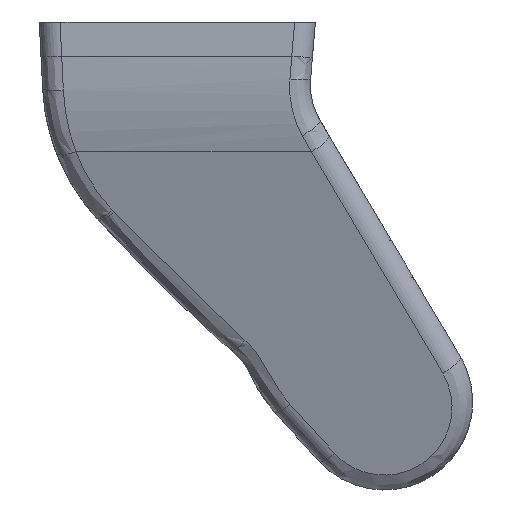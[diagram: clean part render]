
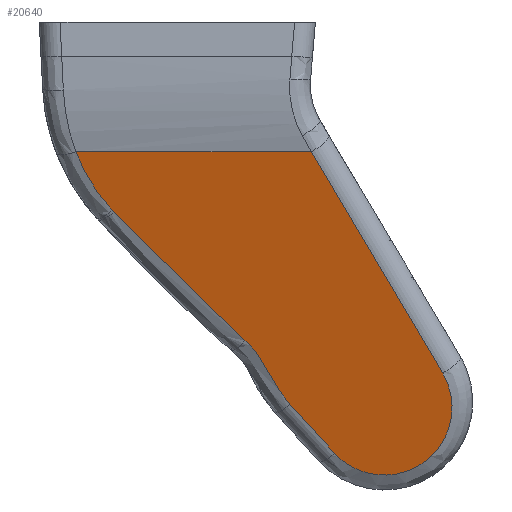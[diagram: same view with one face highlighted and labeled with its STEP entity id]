
A CAD part, left-side view. The second image highlights one B-rep face of the part: STEP entity #20640.
In plain terms, the highlighted planar face has unit normal (-0.961, 0, -0.277).
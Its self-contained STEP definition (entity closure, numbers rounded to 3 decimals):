
#5565 = EDGE_CURVE ( 'NONE', #20936, #20945, #6894, .T. ) ;
#5569 = EDGE_CURVE ( 'NONE', #20872, #20945, #15441, .T. ) ;
#5570 = EDGE_CURVE ( 'NONE', #20881, #20872, #6918, .T. ) ;
#5571 = EDGE_CURVE ( 'NONE', #20876, #20881, #15442, .T. ) ;
#5572 = EDGE_CURVE ( 'NONE', #20878, #20876, #20371, .T. ) ;
#5573 = EDGE_CURVE ( 'NONE', #20340, #20878, #6932, .T. ) ;
#5574 = EDGE_CURVE ( 'NONE', #20880, #20340, #15443, .T. ) ;
#5575 = EDGE_CURVE ( 'NONE', #20936, #20880, #6948, .T. ) ;
#6278 = ORIENTED_EDGE ( 'NONE', *, *, #5565, .T. ) ;
#6279 = ORIENTED_EDGE ( 'NONE', *, *, #5569, .F. ) ;
#6280 = ORIENTED_EDGE ( 'NONE', *, *, #5570, .F. ) ;
#6281 = ORIENTED_EDGE ( 'NONE', *, *, #5571, .F. ) ;
#6282 = ORIENTED_EDGE ( 'NONE', *, *, #5572, .F. ) ;
#6283 = ORIENTED_EDGE ( 'NONE', *, *, #5573, .F. ) ;
#6284 = ORIENTED_EDGE ( 'NONE', *, *, #5574, .F. ) ;
#6285 = ORIENTED_EDGE ( 'NONE', *, *, #5575, .F. ) ;
#6894 = LINE ( 'NONE', #6896, #15415 ) ;
#6896 = CARTESIAN_POINT ( 'NONE',  ( -320.319, -82.548, 78.225 ) ) ;
#6903 = DIRECTION ( 'NONE',  ( 0., 1., 0. ) ) ;
#6907 = CARTESIAN_POINT ( 'NONE',  ( -317.878, -30.291, 69.757 ) ) ;
#6909 = CARTESIAN_POINT ( 'NONE',  ( -309.969, -55.414, 42.322 ) ) ;
#6918 = LINE ( 'NONE', #6922, #15414 ) ;
#6922 = CARTESIAN_POINT ( 'NONE',  ( -312.075, -48.724, 49.628 ) ) ;
#6923 = CARTESIAN_POINT ( 'NONE',  ( -318.593, -28.021, 72.236 ) ) ;
#6924 = CARTESIAN_POINT ( 'NONE',  ( -319.416, -26.248, 75.091 ) ) ;
#6925 = CARTESIAN_POINT ( 'NONE',  ( -320.319, -25.032, 78.225 ) ) ;
#6926 = CARTESIAN_POINT ( 'NONE',  ( -313.713, -44.237, 55.308 ) ) ;
#6927 = CARTESIAN_POINT ( 'NONE',  ( -312.432, -49.547, 50.867 ) ) ;
#6928 = DIRECTION ( 'NONE',  ( -0.208, 0.661, 0.721 ) ) ;
#6930 = CARTESIAN_POINT ( 'NONE',  ( -315.67, -37.304, 62.099 ) ) ;
#6931 = CARTESIAN_POINT ( 'NONE',  ( -317.803, -30.531, 69.495 ) ) ;
#6932 = LINE ( 'NONE', #6934, #22900 ) ;
#6933 = CARTESIAN_POINT ( 'NONE',  ( -309.765, -56.063, 41.614 ) ) ;
#6934 = CARTESIAN_POINT ( 'NONE',  ( -312.075, -48.724, 49.628 ) ) ;
#6935 = CARTESIAN_POINT ( 'NONE',  ( -310.192, -54.871, 43.096 ) ) ;
#6936 = CARTESIAN_POINT ( 'NONE',  ( -310.653, -53.872, 44.696 ) ) ;
#6937 = CARTESIAN_POINT ( 'NONE',  ( -310.892, -53.42, 45.526 ) ) ;
#6938 = CARTESIAN_POINT ( 'NONE',  ( -311.368, -52.504, 47.177 ) ) ;
#6939 = CARTESIAN_POINT ( 'NONE',  ( -311.605, -52.041, 47.999 ) ) ;
#6940 = CARTESIAN_POINT ( 'NONE',  ( -311.937, -51.22, 49.15 ) ) ;
#6941 = CARTESIAN_POINT ( 'NONE',  ( -312.044, -50.924, 49.52 ) ) ;
#6942 = CARTESIAN_POINT ( 'NONE',  ( -312.246, -50.275, 50.222 ) ) ;
#6943 = CARTESIAN_POINT ( 'NONE',  ( -312.342, -49.92, 50.555 ) ) ;
#6944 = CARTESIAN_POINT ( 'NONE',  ( -312.432, -49.547, 50.867 ) ) ;
#6945 = CARTESIAN_POINT ( 'NONE',  ( -307.073, -86.435, 32.276 ) ) ;
#6946 = CARTESIAN_POINT ( 'NONE',  ( -311.083, -78.173, 46.185 ) ) ;
#6947 = DIRECTION ( 'NONE',  ( -0.208, 0.661, 0.721 ) ) ;
#6948 = LINE ( 'NONE', #6951, #22896 ) ;
#6949 = CARTESIAN_POINT ( 'NONE',  ( -304.292, -73.446, 22.632 ) ) ;
#6950 = CARTESIAN_POINT ( 'NONE',  ( -307.732, -62.52, 34.563 ) ) ;
#6951 = CARTESIAN_POINT ( 'NONE',  ( -317.529, -64.894, 68.545 ) ) ;
#6954 = DIRECTION ( 'NONE',  ( 0.241, -0.496, -0.835 ) ) ;
#10359 = CARTESIAN_POINT ( 'NONE',  ( -307.732, -62.52, 34.563 ) ) ;
#10841 = AXIS2_PLACEMENT_3D ( 'NONE', #11960, #11965, #11966 ) ;
#11960 = CARTESIAN_POINT ( 'NONE',  ( -320.319, -82.548, 78.225 ) ) ;
#11962 = FACE_OUTER_BOUND ( 'NONE', #17368, .T. ) ;
#11963 = PLANE ( 'NONE',  #10841 ) ;
#11965 = DIRECTION ( 'NONE',  ( -0.961, 0., -0.277 ) ) ;
#11966 = DIRECTION ( 'NONE',  ( -0.277, 0., 0.961 ) ) ;
#14954 = CARTESIAN_POINT ( 'NONE',  ( -317.878, -30.291, 69.757 ) ) ;
#14958 = CARTESIAN_POINT ( 'NONE',  ( -312.432, -49.547, 50.867 ) ) ;
#14960 = CARTESIAN_POINT ( 'NONE',  ( -309.765, -56.063, 41.614 ) ) ;
#14962 = CARTESIAN_POINT ( 'NONE',  ( -311.083, -78.173, 46.185 ) ) ;
#14963 = CARTESIAN_POINT ( 'NONE',  ( -317.803, -30.531, 69.495 ) ) ;
#15018 = CARTESIAN_POINT ( 'NONE',  ( -320.319, -59.145, 78.225 ) ) ;
#15027 = CARTESIAN_POINT ( 'NONE',  ( -320.319, -25.032, 78.225 ) ) ;
#15414 = VECTOR ( 'NONE', #6928, 1000. ) ;
#15415 = VECTOR ( 'NONE', #6903, 1000. ) ;
#15441 =( BOUNDED_CURVE ( )  B_SPLINE_CURVE ( 3, ( #6907, #6923, #6924, #6925 ),
 .UNSPECIFIED., .F., .T. ) 
 B_SPLINE_CURVE_WITH_KNOTS ( ( 4, 4 ),
 ( 3.971, 4.342 ),
 .UNSPECIFIED. ) 
 CURVE ( )  GEOMETRIC_REPRESENTATION_ITEM ( )  RATIONAL_B_SPLINE_CURVE ( ( 1., 0.989, 0.989, 1. ) ) 
 REPRESENTATION_ITEM ( '' )  );
#15442 =( BOUNDED_CURVE ( )  B_SPLINE_CURVE ( 3, ( #6927, #6926, #6930, #6931 ),
 .UNSPECIFIED., .F., .T. ) 
 B_SPLINE_CURVE_WITH_KNOTS ( ( 4, 4 ),
 ( 3.876, 4.902 ),
 .UNSPECIFIED. ) 
 CURVE ( )  GEOMETRIC_REPRESENTATION_ITEM ( )  RATIONAL_B_SPLINE_CURVE ( ( 1., 0.914, 0.914, 1. ) ) 
 REPRESENTATION_ITEM ( '' )  );
#15443 =( BOUNDED_CURVE ( )  B_SPLINE_CURVE ( 3, ( #6946, #6945, #6949, #6950 ),
 .UNSPECIFIED., .F., .T. ) 
 B_SPLINE_CURVE_WITH_KNOTS ( ( 4, 4 ),
 ( 1.035, 3.971 ),
 .UNSPECIFIED. ) 
 CURVE ( )  GEOMETRIC_REPRESENTATION_ITEM ( )  RATIONAL_B_SPLINE_CURVE ( ( 1., 0.402, 0.402, 1. ) ) 
 REPRESENTATION_ITEM ( '' )  );
#17368 = EDGE_LOOP ( 'NONE', ( #6278, #6279, #6280, #6281, #6282, #6283, #6284, #6285 ) ) ;
#20340 = VERTEX_POINT ( 'NONE', #10359 ) ;
#20371 = B_SPLINE_CURVE_WITH_KNOTS ( 'NONE', 3,
 ( #6933, #6909, #6935, #6936, #6937, #6938, #6939, #6940, #6941, #6942, #6943, #6944 ),
 .UNSPECIFIED., .F., .F.,
 ( 4, 2, 2, 2, 2, 4 ),
 ( 0., 0.003, 0.006, 0.009, 0.01, 0.012 ),
 .UNSPECIFIED. ) ;
#20640 = ADVANCED_FACE ( 'NONE', ( #11962 ), #11963, .T. ) ;
#20872 = VERTEX_POINT ( 'NONE', #14954 ) ;
#20876 = VERTEX_POINT ( 'NONE', #14958 ) ;
#20878 = VERTEX_POINT ( 'NONE', #14960 ) ;
#20880 = VERTEX_POINT ( 'NONE', #14962 ) ;
#20881 = VERTEX_POINT ( 'NONE', #14963 ) ;
#20936 = VERTEX_POINT ( 'NONE', #15018 ) ;
#20945 = VERTEX_POINT ( 'NONE', #15027 ) ;
#22896 = VECTOR ( 'NONE', #6954, 1000. ) ;
#22900 = VECTOR ( 'NONE', #6947, 1000. ) ;
